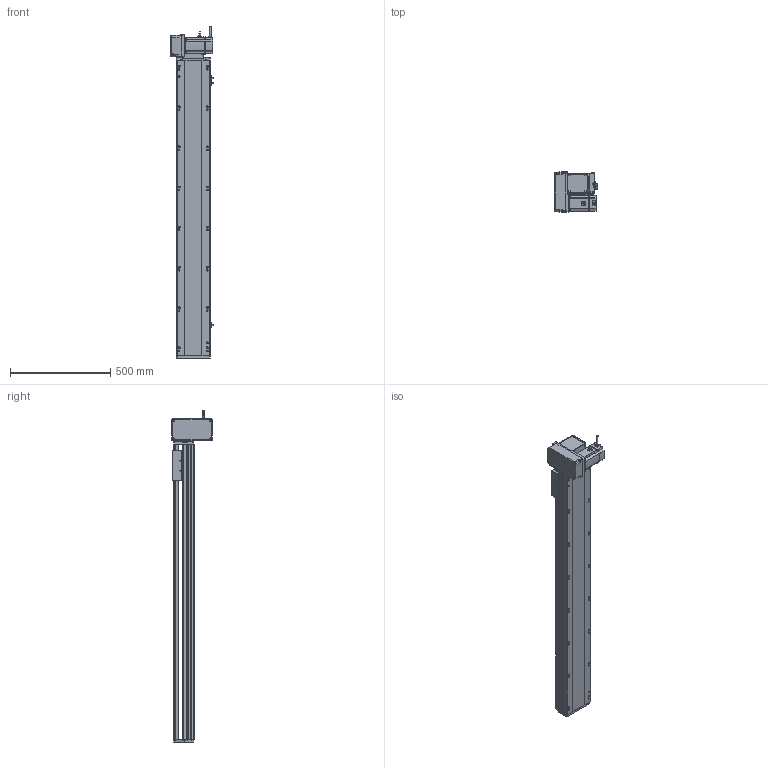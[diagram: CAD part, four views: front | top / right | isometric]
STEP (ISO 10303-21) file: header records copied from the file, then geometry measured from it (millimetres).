
FILE_DESCRIPTION (( 'STEP AP214' ), '1' );
FILE_NAME ('RTB17S-XX-1200-LM-M75-C4.STEP', '2025-12-12T00:39:49', ( '' ), ( '' ), 'SwSTEP 2.0', 'SolidWorks 2018', '' );
FILE_SCHEMA (( 'AUTOMOTIVE_DESIGN' ));
Length unit declared in the file: millimetre
Products named in the file (15): RTB17S-LM-々湍釱蚾饜-750W^RTB17S-XX-XX-LM-M75-C4; RTH13-BL-012覜茼え俋离^RTB17S-賑釱_RTB17S-XX-XX-LM-M75-C4; EE672^RTB17S-XX-XX-LM-M75-C4; RTB22S-GY-008-M75--萇儂啣^RTB17S-LM-々湍釱蚾饜-750W_RTB17S-XX-XX-LM-M75-C4; RTB17S-L-007奻裔^RTB17S-XX-XX-LM-M75-C4; RTB17S-L-014-T20-P75--々湍釱^RTB17S-LM-々湍釱蚾饜-750W_RTB17S-XX-XX-LM-M75-C4; RTB22S-GY-005P^RTB17S-LM-々湍釱蚾饜-750W_RTB17S-XX-XX-LM-M75-C4; RTB22S-GY-017P^RTB17S-LM-々湍釱蚾饜-750W_RTB17S-XX-XX-LM-M75-C4; RTB17S-L-001-耜醱啣^RTB17S-XX-XX-LM-M75-C4; RTB17-R-011菁釱^RTB17S-XX-XX-LM-M75-C4; RTB17S-賑釱^RTB17S-XX-XX-LM-M75-C4; RTB17S-XX-1200-LM-M75-C4; RTB17S-L-004-賑釱^RTB17S-賑釱_RTB17S-XX-XX-LM-M75-C4; RTB22S-GY-018P^RTB17S-LM-々湍釱蚾饜-750W_RTB17S-XX-XX-LM-M75-C4; 750W萇儂^RTB17S-XX-XX-LM-M75-C4
Assembly tree (17 placements, depth 3):
  RTB17S-XX-1200-LM-M75-C4
    RTB17-R-011菁釱^RTB17S-XX-XX-LM-M75-C4
    EE672^RTB17S-XX-XX-LM-M75-C4  x3
    RTB17S-L-001-耜醱啣^RTB17S-XX-XX-LM-M75-C4
    RTB17S-賑釱^RTB17S-XX-XX-LM-M75-C4
      RTB17S-L-004-賑釱^RTB17S-賑釱_RTB17S-XX-XX-LM-M75-C4
      RTH13-BL-012覜茼え俋离^RTB17S-賑釱_RTB17S-XX-XX-LM-M75-C4
    RTB17S-L-007奻裔^RTB17S-XX-XX-LM-M75-C4
    750W萇儂^RTB17S-XX-XX-LM-M75-C4
    RTB17S-LM-々湍釱蚾饜-750W^RTB17S-XX-XX-LM-M75-C4
      RTB17S-L-014-T20-P75--々湍釱^RTB17S-LM-々湍釱蚾饜-750W_RTB17S-XX-XX-LM-M75-C4
      RTB22S-GY-005P^RTB17S-LM-々湍釱蚾饜-750W_RTB17S-XX-XX-LM-M75-C4
      RTB22S-GY-017P^RTB17S-LM-々湍釱蚾饜-750W_RTB17S-XX-XX-LM-M75-C4  x2
      RTB22S-GY-008-M75--萇儂啣^RTB17S-LM-々湍釱蚾饜-750W_RTB17S-XX-XX-LM-M75-C4
      RTB22S-GY-018P^RTB17S-LM-々湍釱蚾饜-750W_RTB17S-XX-XX-LM-M75-C4
Bounding box: 210.4 x 200 x 1652.2 mm (x, y, z)
Volume: 13453992 mm3; surface area: 2315685.6 mm2
Topology: 17 solids, 17 shells, 2105 faces, 5836 edges, 3770 vertices
Faces by surface type: plane 972, cylinder 717, bspline 294, cone 110, sphere 8, torus 4
Entity records: 58870 total; most frequent: CARTESIAN_POINT 17300, ORIENTED_EDGE 8516, DIRECTION 7952, EDGE_CURVE 4258, AXIS2_PLACEMENT_3D 2790, VERTEX_POINT 2774, LINE 2372, VECTOR 2372
